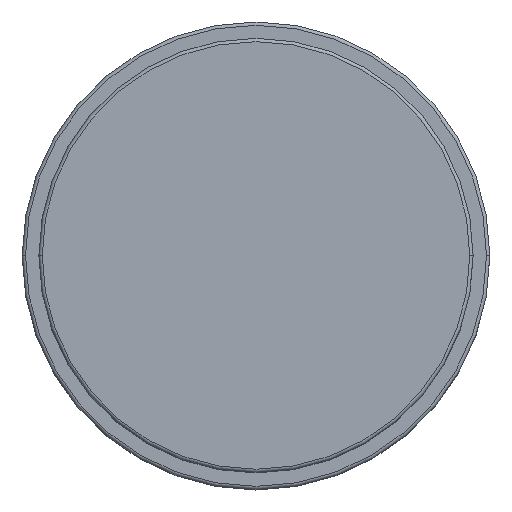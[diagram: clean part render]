
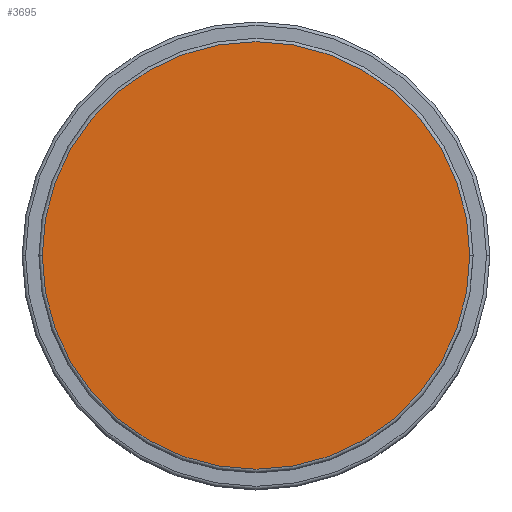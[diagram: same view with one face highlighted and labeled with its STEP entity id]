
A CAD part, top view. The second image highlights one B-rep face of the part: STEP entity #3695.
In plain terms, the highlighted planar face has unit normal (0, 0, 1).
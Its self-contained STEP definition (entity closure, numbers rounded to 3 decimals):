
#153 = CIRCLE ( 'NONE', #438, 32. ) ;
#438 = AXIS2_PLACEMENT_3D ( 'NONE', #456, #860, #1715 ) ;
#456 = CARTESIAN_POINT ( 'NONE',  ( 0., 0., 62. ) ) ;
#459 = CARTESIAN_POINT ( 'NONE',  ( -32., 0., 62. ) ) ;
#581 = CARTESIAN_POINT ( 'NONE',  ( 32., 0., 62. ) ) ;
#860 = DIRECTION ( 'NONE',  ( 0., 0., 1. ) ) ;
#1312 = EDGE_CURVE ( 'NONE', #3921, #5159, #153, .T. ) ;
#1715 = DIRECTION ( 'NONE',  ( 1., 0., 0. ) ) ;
#1845 = DIRECTION ( 'NONE',  ( 0., 0., 1. ) ) ;
#2075 = AXIS2_PLACEMENT_3D ( 'NONE', #2331, #1845, #4376 ) ;
#2081 = ORIENTED_EDGE ( 'NONE', *, *, #3280, .T. ) ;
#2331 = CARTESIAN_POINT ( 'NONE',  ( 0., 0., 62. ) ) ;
#2434 = DIRECTION ( 'NONE',  ( 0., 0., 1. ) ) ;
#2727 = PLANE ( 'NONE',  #2075 ) ;
#2936 = ORIENTED_EDGE ( 'NONE', *, *, #1312, .T. ) ;
#3168 = FACE_OUTER_BOUND ( 'NONE', #4589, .T. ) ;
#3280 = EDGE_CURVE ( 'NONE', #5159, #3921, #4494, .T. ) ;
#3695 = ADVANCED_FACE ( 'NONE', ( #3168 ), #2727, .T. ) ;
#3721 = CARTESIAN_POINT ( 'NONE',  ( 0., 0., 62. ) ) ;
#3921 = VERTEX_POINT ( 'NONE', #581 ) ;
#4376 = DIRECTION ( 'NONE',  ( 1., 0., 0. ) ) ;
#4494 = CIRCLE ( 'NONE', #4779, 32. ) ;
#4589 = EDGE_LOOP ( 'NONE', ( #2936, #2081 ) ) ;
#4779 = AXIS2_PLACEMENT_3D ( 'NONE', #3721, #2434, #5399 ) ;
#5159 = VERTEX_POINT ( 'NONE', #459 ) ;
#5399 = DIRECTION ( 'NONE',  ( 1., 0., 0. ) ) ;
